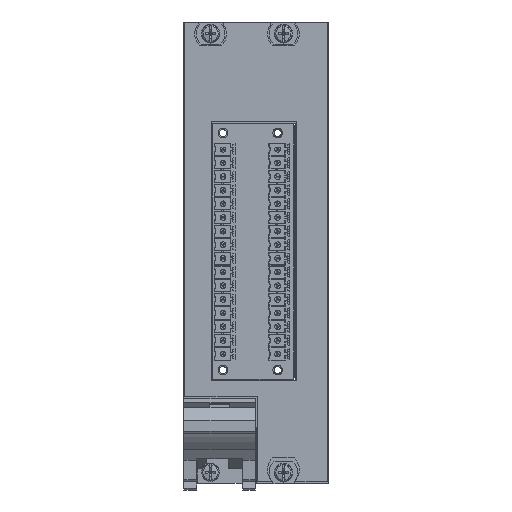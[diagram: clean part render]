
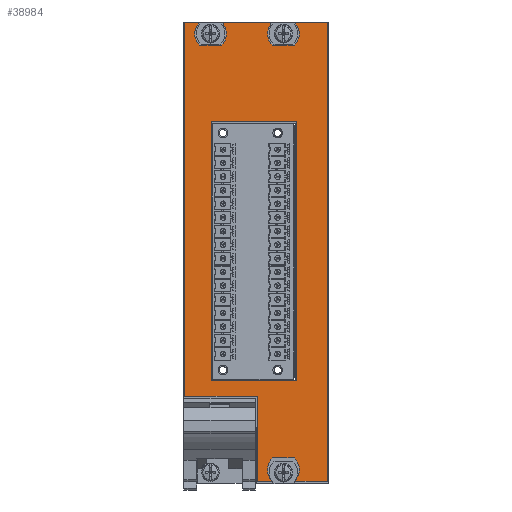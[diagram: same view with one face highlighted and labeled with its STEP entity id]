
A CAD part, top view. The second image highlights one B-rep face of the part: STEP entity #38984.
In plain terms, the highlighted planar face has unit normal (0, 0, 1).
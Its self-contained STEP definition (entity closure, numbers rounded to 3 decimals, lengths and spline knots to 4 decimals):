
#921=CARTESIAN_POINT('',(0.301,-2.4115,0.115));
#922=DIRECTION('',(0.,0.,1.));
#923=DIRECTION('',(0.797,-0.605,0.));
#924=AXIS2_PLACEMENT_3D('',#921,#922,#923);
#926=CARTESIAN_POINT('',(0.301,-2.378,0.115));
#927=DIRECTION('',(0.,0.,1.));
#928=DIRECTION('',(0.806,-0.591,0.));
#929=AXIS2_PLACEMENT_3D('',#926,#927,#928);
#931=DIRECTION('',(-1.,0.,0.));
#932=VECTOR('',#931,0.237);
#933=CARTESIAN_POINT('',(0.4195,-2.2492,0.115));
#934=LINE('',#933,#932);
#935=CARTESIAN_POINT('',(0.301,-2.378,0.115));
#936=DIRECTION('',(0.,0.,1.));
#937=DIRECTION('',(-0.677,0.736,0.));
#938=AXIS2_PLACEMENT_3D('',#935,#936,#937);
#940=CARTESIAN_POINT('',(0.301,-2.4115,0.115));
#941=DIRECTION('',(0.,0.,1.));
#942=DIRECTION('',(-0.896,-0.444,0.));
#943=AXIS2_PLACEMENT_3D('',#940,#941,#942);
#945=DIRECTION('',(1.,0.,0.));
#946=VECTOR('',#945,0.1595);
#947=CARTESIAN_POINT('',(0.016,-2.5067,0.115));
#948=LINE('',#947,#946);
#949=DIRECTION('',(0.,1.,0.));
#950=VECTOR('',#949,0.937);
#951=CARTESIAN_POINT('',(0.016,-2.5067,0.115));
#952=LINE('',#951,#950);
#953=DIRECTION('',(1.,0.,0.));
#954=VECTOR('',#953,0.8);
#955=CARTESIAN_POINT('',(-0.784,-1.5697,0.115));
#956=LINE('',#955,#954);
#957=DIRECTION('',(0.,-1.,0.));
#958=VECTOR('',#957,4.11);
#959=CARTESIAN_POINT('',(-0.784,2.5403,0.115));
#960=LINE('',#959,#958);
#961=DIRECTION('',(-1.,0.,0.));
#962=VECTOR('',#961,0.1665);
#963=CARTESIAN_POINT('',(-0.6175,2.5403,0.115));
#964=LINE('',#963,#962);
#965=CARTESIAN_POINT('',(-0.499,2.4115,0.115));
#966=DIRECTION('',(0.,0.,1.));
#967=DIRECTION('',(-0.677,0.736,0.));
#968=AXIS2_PLACEMENT_3D('',#965,#966,#967);
#970=DIRECTION('',(1.,0.,0.));
#971=VECTOR('',#970,0.237);
#972=CARTESIAN_POINT('',(-0.6175,2.2827,0.115));
#973=LINE('',#972,#971);
#974=CARTESIAN_POINT('',(-0.499,2.4115,0.115));
#975=DIRECTION('',(0.,0.,1.));
#976=DIRECTION('',(0.677,-0.736,0.));
#977=AXIS2_PLACEMENT_3D('',#974,#975,#976);
#979=DIRECTION('',(-1.,0.,0.));
#980=VECTOR('',#979,0.563);
#981=CARTESIAN_POINT('',(0.1825,2.5403,0.115));
#982=LINE('',#981,#980);
#983=CARTESIAN_POINT('',(0.301,2.4115,0.115));
#984=DIRECTION('',(0.,0.,1.));
#985=DIRECTION('',(-0.677,0.736,0.));
#986=AXIS2_PLACEMENT_3D('',#983,#984,#985);
#988=DIRECTION('',(1.,0.,0.));
#989=VECTOR('',#988,0.237);
#990=CARTESIAN_POINT('',(0.1825,2.2827,0.115));
#991=LINE('',#990,#989);
#992=CARTESIAN_POINT('',(0.301,2.4115,0.115));
#993=DIRECTION('',(0.,0.,1.));
#994=DIRECTION('',(0.677,-0.736,0.));
#995=AXIS2_PLACEMENT_3D('',#992,#993,#994);
#997=DIRECTION('',(-1.,0.,0.));
#998=VECTOR('',#997,0.3645);
#999=CARTESIAN_POINT('',(0.784,2.5403,0.115));
#1000=LINE('',#999,#998);
#1001=DIRECTION('',(0.,1.,0.));
#1002=VECTOR('',#1001,5.047);
#1003=CARTESIAN_POINT('',(0.784,-2.5067,0.115));
#1004=LINE('',#1003,#1002);
#1005=DIRECTION('',(1.,0.,0.));
#1006=VECTOR('',#1005,0.3575);
#1007=CARTESIAN_POINT('',(0.4265,-2.5067,0.115));
#1008=LINE('',#1007,#1006);
#1009=DIRECTION('',(0.,-1.,0.));
#1010=VECTOR('',#1009,2.849);
#1011=CARTESIAN_POINT('',(-0.486,1.4493,0.115));
#1012=LINE('',#1011,#1010);
#1013=DIRECTION('',(1.,0.,0.));
#1014=VECTOR('',#1013,0.934);
#1015=CARTESIAN_POINT('',(-0.486,-1.3997,0.115));
#1016=LINE('',#1015,#1014);
#1017=DIRECTION('',(0.,1.,0.));
#1018=VECTOR('',#1017,2.849);
#1019=CARTESIAN_POINT('',(0.448,-1.3997,0.115));
#1020=LINE('',#1019,#1018);
#1021=DIRECTION('',(-1.,0.,0.));
#1022=VECTOR('',#1021,0.934);
#1023=CARTESIAN_POINT('',(0.448,1.4493,0.115));
#1024=LINE('',#1023,#1022);
#30282=CARTESIAN_POINT('',(0.784,-2.5067,0.115));
#30283=CARTESIAN_POINT('',(0.784,2.5403,0.115));
#30284=VERTEX_POINT('',#30282);
#30285=VERTEX_POINT('',#30283);
#30287=CARTESIAN_POINT('',(-0.784,2.5403,0.115));
#30289=VERTEX_POINT('',#30287);
#30292=CARTESIAN_POINT('',(0.016,-2.5067,0.115));
#30293=CARTESIAN_POINT('',(0.016,-1.5697,0.115));
#30294=VERTEX_POINT('',#30292);
#30295=VERTEX_POINT('',#30293);
#30296=CARTESIAN_POINT('',(-0.784,-1.5697,0.115));
#30297=VERTEX_POINT('',#30296);
#30298=CARTESIAN_POINT('',(-0.486,1.4493,0.115));
#30299=CARTESIAN_POINT('',(-0.486,-1.3997,0.115));
#30300=VERTEX_POINT('',#30298);
#30301=VERTEX_POINT('',#30299);
#30302=CARTESIAN_POINT('',(0.448,-1.3997,0.115));
#30303=VERTEX_POINT('',#30302);
#30304=CARTESIAN_POINT('',(0.448,1.4493,0.115));
#30305=VERTEX_POINT('',#30304);
#30306=CARTESIAN_POINT('',(-0.6175,2.5403,0.115));
#30307=CARTESIAN_POINT('',(-0.6175,2.2827,0.115));
#30308=VERTEX_POINT('',#30306);
#30309=VERTEX_POINT('',#30307);
#30310=CARTESIAN_POINT('',(-0.3805,2.2827,0.115));
#30311=VERTEX_POINT('',#30310);
#30312=CARTESIAN_POINT('',(-0.3805,2.5403,0.115));
#30313=VERTEX_POINT('',#30312);
#30318=CARTESIAN_POINT('',(0.1825,2.5403,0.115));
#30319=CARTESIAN_POINT('',(0.1825,2.2827,0.115));
#30320=VERTEX_POINT('',#30318);
#30321=VERTEX_POINT('',#30319);
#30322=CARTESIAN_POINT('',(0.4195,2.2827,0.115));
#30323=VERTEX_POINT('',#30322);
#30324=CARTESIAN_POINT('',(0.4195,2.5403,0.115));
#30325=VERTEX_POINT('',#30324);
#30330=CARTESIAN_POINT('',(0.4195,-2.2492,0.115));
#30331=CARTESIAN_POINT('',(0.1825,-2.2492,0.115));
#30332=VERTEX_POINT('',#30330);
#30333=VERTEX_POINT('',#30331);
#31188=CARTESIAN_POINT('',(0.4265,-2.5067,0.115));
#31189=CARTESIAN_POINT('',(0.4421,-2.4814,0.115));
#31190=VERTEX_POINT('',#31188);
#31191=VERTEX_POINT('',#31189);
#31192=CARTESIAN_POINT('',(0.1599,-2.4814,0.115));
#31193=CARTESIAN_POINT('',(0.1755,-2.5067,0.115));
#31194=VERTEX_POINT('',#31192);
#31195=VERTEX_POINT('',#31193);
#38935=CARTESIAN_POINT('',(0.,0.0168,0.115));
#38936=DIRECTION('',(0.,0.,1.));
#38937=DIRECTION('',(1.,0.,0.));
#38938=AXIS2_PLACEMENT_3D('',#38935,#38936,#38937);
#38939=PLANE('',#38938);
#38940=ORIENTED_EDGE('',*,*,#38327,.T.);
#38942=ORIENTED_EDGE('',*,*,#38941,.T.);
#38944=ORIENTED_EDGE('',*,*,#38943,.T.);
#38945=ORIENTED_EDGE('',*,*,#38927,.T.);
#38946=ORIENTED_EDGE('',*,*,#38363,.T.);
#38948=ORIENTED_EDGE('',*,*,#38947,.F.);
#38950=ORIENTED_EDGE('',*,*,#38949,.T.);
#38952=ORIENTED_EDGE('',*,*,#38951,.F.);
#38954=ORIENTED_EDGE('',*,*,#38953,.F.);
#38956=ORIENTED_EDGE('',*,*,#38955,.F.);
#38957=ORIENTED_EDGE('',*,*,#38114,.T.);
#38959=ORIENTED_EDGE('',*,*,#38958,.T.);
#38960=ORIENTED_EDGE('',*,*,#38156,.T.);
#38962=ORIENTED_EDGE('',*,*,#38961,.F.);
#38963=ORIENTED_EDGE('',*,*,#38186,.T.);
#38965=ORIENTED_EDGE('',*,*,#38964,.T.);
#38966=ORIENTED_EDGE('',*,*,#38228,.T.);
#38968=ORIENTED_EDGE('',*,*,#38967,.F.);
#38969=ORIENTED_EDGE('',*,*,#38258,.F.);
#38971=ORIENTED_EDGE('',*,*,#38970,.F.);
#38972=EDGE_LOOP('',(#38940,#38942,#38944,#38945,#38946,#38948,#38950,#38952,
#38954,#38956,#38957,#38959,#38960,#38962,#38963,#38965,#38966,#38968,#38969,
#38971));
#38973=FACE_OUTER_BOUND('',#38972,.F.);
#38975=ORIENTED_EDGE('',*,*,#38974,.T.);
#38977=ORIENTED_EDGE('',*,*,#38976,.T.);
#38979=ORIENTED_EDGE('',*,*,#38978,.T.);
#38981=ORIENTED_EDGE('',*,*,#38980,.T.);
#38982=EDGE_LOOP('',(#38975,#38977,#38979,#38981));
#38983=FACE_BOUND('',#38982,.F.);
#38984=ADVANCED_FACE('',(#38973,#38983),#38939,.T.);
#925=CIRCLE('',#924,0.1575);
#930=CIRCLE('',#929,0.175);
#939=CIRCLE('',#938,0.175);
#944=CIRCLE('',#943,0.1575);
#969=CIRCLE('',#968,0.175);
#978=CIRCLE('',#977,0.175);
#987=CIRCLE('',#986,0.175);
#996=CIRCLE('',#995,0.175);
#38114=EDGE_CURVE('',#30308,#30309,#969,.T.);
#38156=EDGE_CURVE('',#30311,#30313,#978,.T.);
#38186=EDGE_CURVE('',#30320,#30321,#987,.T.);
#38228=EDGE_CURVE('',#30323,#30325,#996,.T.);
#38258=EDGE_CURVE('',#30284,#30285,#1004,.T.);
#38327=EDGE_CURVE('',#31190,#31191,#925,.T.);
#38363=EDGE_CURVE('',#31194,#31195,#944,.T.);
#38927=EDGE_CURVE('',#30333,#31194,#939,.T.);
#38941=EDGE_CURVE('',#31191,#30332,#930,.T.);
#38943=EDGE_CURVE('',#30332,#30333,#934,.T.);
#38947=EDGE_CURVE('',#30294,#31195,#948,.T.);
#38949=EDGE_CURVE('',#30294,#30295,#952,.T.);
#38951=EDGE_CURVE('',#30297,#30295,#956,.T.);
#38953=EDGE_CURVE('',#30289,#30297,#960,.T.);
#38955=EDGE_CURVE('',#30308,#30289,#964,.T.);
#38958=EDGE_CURVE('',#30309,#30311,#973,.T.);
#38961=EDGE_CURVE('',#30320,#30313,#982,.T.);
#38964=EDGE_CURVE('',#30321,#30323,#991,.T.);
#38967=EDGE_CURVE('',#30285,#30325,#1000,.T.);
#38970=EDGE_CURVE('',#31190,#30284,#1008,.T.);
#38974=EDGE_CURVE('',#30300,#30301,#1012,.T.);
#38976=EDGE_CURVE('',#30301,#30303,#1016,.T.);
#38978=EDGE_CURVE('',#30303,#30305,#1020,.T.);
#38980=EDGE_CURVE('',#30305,#30300,#1024,.T.);
